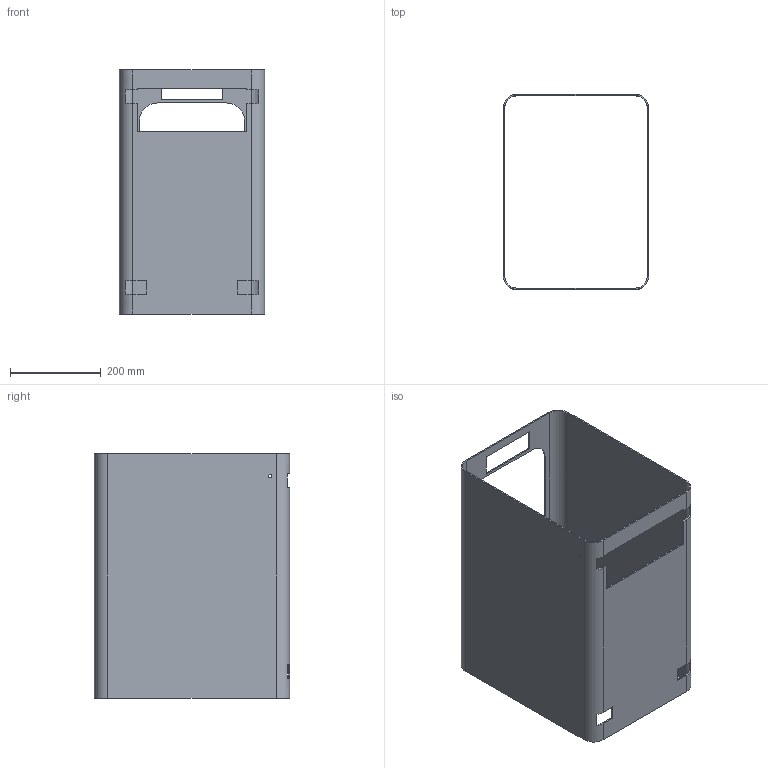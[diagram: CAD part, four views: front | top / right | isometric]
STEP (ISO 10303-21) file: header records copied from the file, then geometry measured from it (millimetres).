
FILE_DESCRIPTION(('Open CASCADE Model'),'2;1');
FILE_NAME('Open CASCADE Shape Model','2026-10-06T19:56:08',('Author'),( 'Open CASCADE'),'Open CASCADE STEP processor 7.9','Open CASCADE 7.9' ,'Unknown');
FILE_SCHEMA(('AUTOMOTIVE_DESIGN { 1 0 10303 214 1 1 1 1 }'));
Length unit declared in the file: millimetre
Products named in the file (1): Open CASCADE STEP translator 7.9 5
Bounding box: 320 x 430 x 538 mm (x, y, z)
Volume: 2019426.3 mm3; surface area: 1362466.3 mm2
Topology: 1 solids, 1 shells, 54 faces, 174 edges, 116 vertices
Faces by surface type: plane 40, cylinder 14
Full cylindrical faces by diameter (mm): 7 x2
Entity records: 4102 total; most frequent: CARTESIAN_POINT 853, DIRECTION 536, ORIENTED_EDGE 348, PCURVE 348, DEFINITIONAL_REPRESENTATION 348, LINE 298, VECTOR 298, EDGE_CURVE 174
